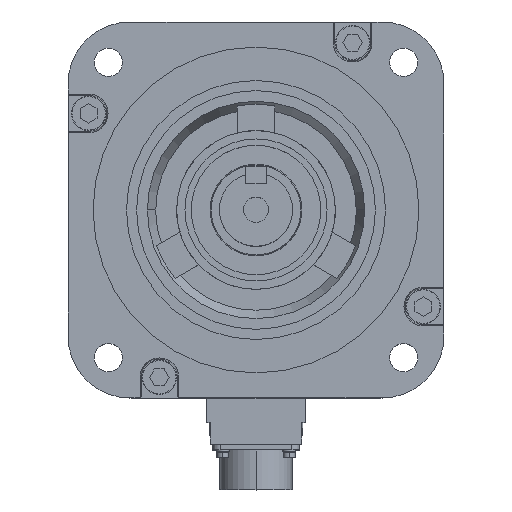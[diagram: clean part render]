
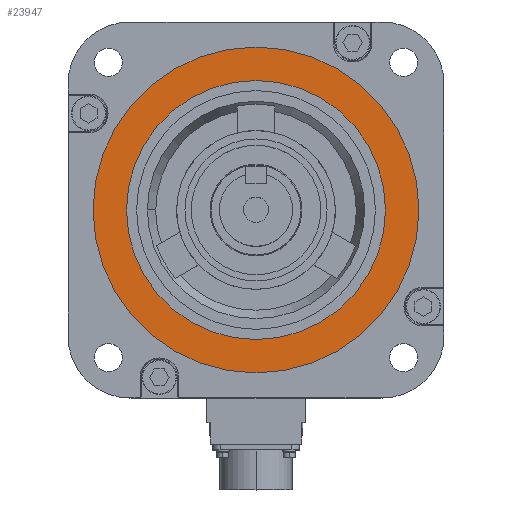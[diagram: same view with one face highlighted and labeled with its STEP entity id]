
A CAD part, top view. The second image highlights one B-rep face of the part: STEP entity #23947.
In plain terms, the highlighted planar face has unit normal (0, 0, 1).
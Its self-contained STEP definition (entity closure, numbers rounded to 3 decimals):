
#9568 = DIRECTION ( 'NONE',  ( 1., 0., 0. ) ) ;
#9569 = DIRECTION ( 'NONE',  ( 0., 0., 1. ) ) ;
#9570 = CARTESIAN_POINT ( 'NONE',  ( 0., 0., -0.5 ) ) ;
#9571 = AXIS2_PLACEMENT_3D ( 'NONE', #9570, #9569, #9568 ) ;
#9572 = CIRCLE ( 'NONE', #9571, 78. ) ;
#9573 = DIRECTION ( 'NONE',  ( 1., 0., 0. ) ) ;
#9574 = DIRECTION ( 'NONE',  ( 0., 0., 1. ) ) ;
#9575 = CARTESIAN_POINT ( 'NONE',  ( 0., 0., -0.5 ) ) ;
#9576 = AXIS2_PLACEMENT_3D ( 'NONE', #9575, #9574, #9573 ) ;
#9577 = PLANE ( 'NONE',  #9576 ) ;
#9578 = FACE_BOUND ( 'NONE', #24010, .T. ) ;
#9579 = FACE_OUTER_BOUND ( 'NONE', #23948, .T. ) ;
#9692 = DIRECTION ( 'NONE',  ( 1., 0., 0. ) ) ;
#9693 = DIRECTION ( 'NONE',  ( 0., 0., 1. ) ) ;
#9695 = CARTESIAN_POINT ( 'NONE',  ( 0., 0., -0.5 ) ) ;
#9696 = AXIS2_PLACEMENT_3D ( 'NONE', #9695, #9693, #9692 ) ;
#9697 = CIRCLE ( 'NONE', #9696, 62. ) ;
#17184 = CARTESIAN_POINT ( 'NONE',  ( 78., 0., -0.5 ) ) ;
#17186 = CARTESIAN_POINT ( 'NONE',  ( -78., 0., -0.5 ) ) ;
#17435 = CARTESIAN_POINT ( 'NONE',  ( -62., 0., -0.5 ) ) ;
#17683 = DIRECTION ( 'NONE',  ( 1., 0., 0. ) ) ;
#17685 = DIRECTION ( 'NONE',  ( 0., 0., 1. ) ) ;
#17686 = CARTESIAN_POINT ( 'NONE',  ( 0., 0., -0.5 ) ) ;
#17687 = AXIS2_PLACEMENT_3D ( 'NONE', #17686, #17685, #17683 ) ;
#17688 = CIRCLE ( 'NONE', #17687, 78. ) ;
#17883 = CARTESIAN_POINT ( 'NONE',  ( 62., 0., -0.5 ) ) ;
#17937 = DIRECTION ( 'NONE',  ( 1., 0., 0. ) ) ;
#17938 = DIRECTION ( 'NONE',  ( 0., 0., 1. ) ) ;
#17939 = CARTESIAN_POINT ( 'NONE',  ( 0., 0., -0.5 ) ) ;
#17940 = AXIS2_PLACEMENT_3D ( 'NONE', #17939, #17938, #17937 ) ;
#17941 = CIRCLE ( 'NONE', #17940, 62. ) ;
#23947 = ADVANCED_FACE ( 'NONE', ( #9579, #9578 ), #9577, .T. ) ;
#23948 = EDGE_LOOP ( 'NONE', ( #23949, #23951 ) ) ;
#23949 = ORIENTED_EDGE ( 'NONE', *, *, #23950, .T. ) ;
#23950 = EDGE_CURVE ( 'NONE', #29722, #29718, #9572, .T. ) ;
#23951 = ORIENTED_EDGE ( 'NONE', *, *, #30004, .T. ) ;
#24010 = EDGE_LOOP ( 'NONE', ( #24011, #24013 ) ) ;
#24011 = ORIENTED_EDGE ( 'NONE', *, *, #24012, .F. ) ;
#24012 = EDGE_CURVE ( 'NONE', #29838, #30106, #9697, .T. ) ;
#24013 = ORIENTED_EDGE ( 'NONE', *, *, #30112, .F. ) ;
#29718 = VERTEX_POINT ( 'NONE', #17186 ) ;
#29722 = VERTEX_POINT ( 'NONE', #17184 ) ;
#29838 = VERTEX_POINT ( 'NONE', #17435 ) ;
#30004 = EDGE_CURVE ( 'NONE', #29718, #29722, #17688, .T. ) ;
#30106 = VERTEX_POINT ( 'NONE', #17883 ) ;
#30112 = EDGE_CURVE ( 'NONE', #30106, #29838, #17941, .T. ) ;
